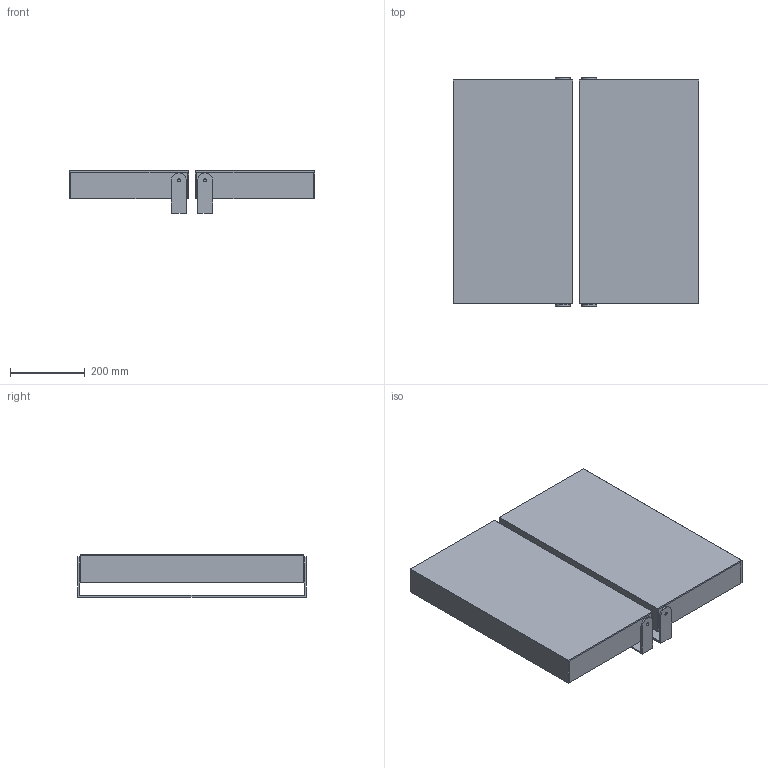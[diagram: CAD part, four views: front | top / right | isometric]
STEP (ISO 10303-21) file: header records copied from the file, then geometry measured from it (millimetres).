
FILE_DESCRIPTION (( 'STEP AP203' ), '1' );
FILE_NAME ('MB 32D.STEP', '2019-02-01T14:31:42', ( '' ), ( '' ), 'SwSTEP 2.0', 'SolidWorks 2019', '' );
FILE_SCHEMA (( 'CONFIG_CONTROL_DESIGN' ));
Length unit declared in the file: millimetre
Products named in the file (4): SPECCHIO MIRROR BOOK SINGOLO 32; MB 32D; SCOCCA MIRROR BOOK SINGOLO 32; ATTACCO A PARETE
Assembly tree (6 placements, depth 2):
  MB 32D
    ATTACCO A PARETE  x2
    SCOCCA MIRROR BOOK SINGOLO 32  x2
    SPECCHIO MIRROR BOOK SINGOLO 32  x2
Bounding box: 658.05 x 612 x 114.05 mm (x, y, z)
Volume: 6562227 mm3; surface area: 2747104.8 mm2
Topology: 8 solids, 8 shells, 114 faces, 288 edges, 192 vertices
Faces by surface type: plane 90, cylinder 24
Entity records: 2230 total; most frequent: CARTESIAN_POINT 306, DIRECTION 300, ORIENTED_EDGE 288, EDGE_CURVE 144, LINE 120, VECTOR 120, VERTEX_POINT 96, AXIS2_PLACEMENT_3D 90
